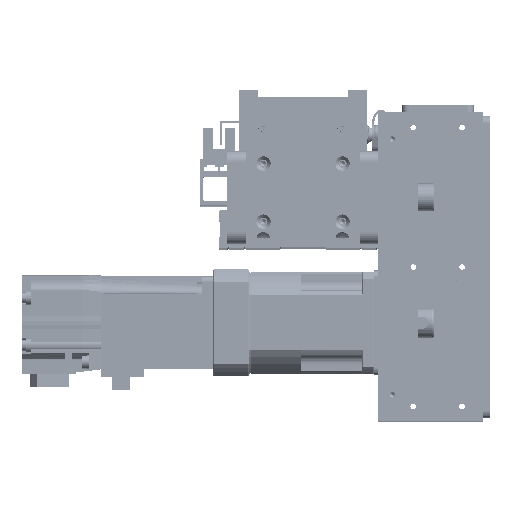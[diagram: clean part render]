
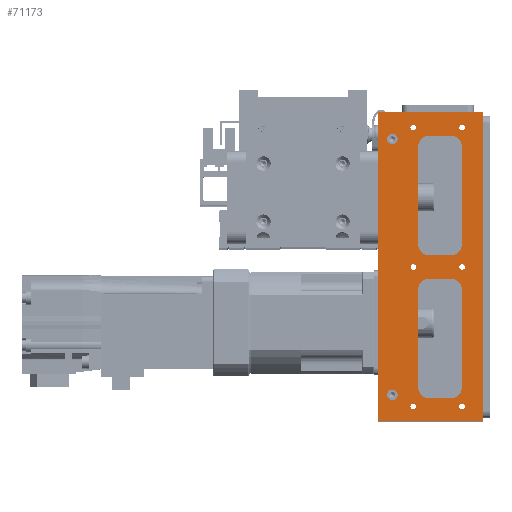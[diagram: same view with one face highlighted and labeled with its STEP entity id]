
A CAD part, top view. The second image highlights one B-rep face of the part: STEP entity #71173.
In plain terms, the highlighted planar face has unit normal (0, 0, 1) as drawn and (0, 1, 0) by its records, which use the part's own axes.
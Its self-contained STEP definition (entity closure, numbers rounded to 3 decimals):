
#1785=FACE_BOUND('',#11467,.T.);
#1786=FACE_BOUND('',#11468,.T.);
#1787=FACE_BOUND('',#11469,.T.);
#1788=FACE_BOUND('',#11470,.T.);
#1789=FACE_BOUND('',#11471,.T.);
#1790=FACE_BOUND('',#11472,.T.);
#1791=FACE_BOUND('',#11473,.T.);
#1792=FACE_BOUND('',#11474,.T.);
#1793=FACE_BOUND('',#11475,.T.);
#1794=FACE_BOUND('',#11476,.T.);
#3388=PLANE('',#78185);
#7086=FACE_OUTER_BOUND('',#11466,.T.);
#11466=EDGE_LOOP('',(#61217,#61218,#61219,#61220));
#11467=EDGE_LOOP('',(#61221));
#11468=EDGE_LOOP('',(#61222));
#11469=EDGE_LOOP('',(#61223));
#11470=EDGE_LOOP('',(#61224));
#11471=EDGE_LOOP('',(#61225));
#11472=EDGE_LOOP('',(#61226));
#11473=EDGE_LOOP('',(#61227));
#11474=EDGE_LOOP('',(#61228));
#11475=EDGE_LOOP('',(#61229,#61230,#61231,#61232,#61233,#61234,#61235,#61236));
#11476=EDGE_LOOP('',(#61237,#61238,#61239,#61240,#61241,#61242,#61243,#61244));
#15140=CIRCLE('',#78006,2.25);
#15144=CIRCLE('',#78012,2.25);
#15155=CIRCLE('',#78033,1.23);
#15159=CIRCLE('',#78039,1.23);
#15163=CIRCLE('',#78045,1.23);
#15167=CIRCLE('',#78051,1.23);
#15171=CIRCLE('',#78057,1.23);
#15175=CIRCLE('',#78063,1.23);
#15208=CIRCLE('',#78116,5.);
#15212=CIRCLE('',#78125,5.);
#15216=CIRCLE('',#78131,5.);
#15218=CIRCLE('',#78137,5.);
#15224=CIRCLE('',#78148,5.);
#15228=CIRCLE('',#78157,5.);
#15232=CIRCLE('',#78163,5.);
#15234=CIRCLE('',#78169,5.);
#19666=LINE('',#117870,#27079);
#19681=LINE('',#117900,#27094);
#19752=LINE('',#118190,#27165);
#19757=LINE('',#118201,#27170);
#19764=LINE('',#118226,#27177);
#19769=LINE('',#118237,#27182);
#19784=LINE('',#118286,#27197);
#19789=LINE('',#118297,#27202);
#19796=LINE('',#118322,#27209);
#19801=LINE('',#118333,#27214);
#19821=LINE('',#118383,#27234);
#19822=LINE('',#118385,#27235);
#27079=VECTOR('',#93371,10.);
#27094=VECTOR('',#93390,10.);
#27165=VECTOR('',#93705,10.);
#27170=VECTOR('',#93714,10.);
#27177=VECTOR('',#93741,10.);
#27182=VECTOR('',#93750,10.);
#27197=VECTOR('',#93801,10.);
#27202=VECTOR('',#93810,10.);
#27209=VECTOR('',#93837,10.);
#27214=VECTOR('',#93846,10.);
#27234=VECTOR('',#93902,10.);
#27235=VECTOR('',#93905,10.);
#34685=VERTEX_POINT('',#117867);
#34686=VERTEX_POINT('',#117869);
#34699=VERTEX_POINT('',#117898);
#34704=VERTEX_POINT('',#117918);
#34708=VERTEX_POINT('',#117930);
#34727=VERTEX_POINT('',#117988);
#34731=VERTEX_POINT('',#118000);
#34735=VERTEX_POINT('',#118012);
#34739=VERTEX_POINT('',#118024);
#34743=VERTEX_POINT('',#118036);
#34747=VERTEX_POINT('',#118048);
#34789=VERTEX_POINT('',#118171);
#34790=VERTEX_POINT('',#118173);
#34796=VERTEX_POINT('',#118188);
#34800=VERTEX_POINT('',#118200);
#34802=VERTEX_POINT('',#118206);
#34806=VERTEX_POINT('',#118218);
#34808=VERTEX_POINT('',#118224);
#34812=VERTEX_POINT('',#118236);
#34821=VERTEX_POINT('',#118267);
#34822=VERTEX_POINT('',#118269);
#34828=VERTEX_POINT('',#118284);
#34832=VERTEX_POINT('',#118296);
#34834=VERTEX_POINT('',#118302);
#34838=VERTEX_POINT('',#118314);
#34840=VERTEX_POINT('',#118320);
#34844=VERTEX_POINT('',#118332);
#34856=VERTEX_POINT('',#118381);
#43745=EDGE_CURVE('',#34685,#34686,#19666,.T.);
#43761=EDGE_CURVE('',#34699,#34685,#19681,.T.);
#43771=EDGE_CURVE('',#34704,#34704,#15140,.T.);
#43777=EDGE_CURVE('',#34708,#34708,#15144,.T.);
#43805=EDGE_CURVE('',#34727,#34727,#15155,.T.);
#43811=EDGE_CURVE('',#34731,#34731,#15159,.T.);
#43817=EDGE_CURVE('',#34735,#34735,#15163,.T.);
#43823=EDGE_CURVE('',#34739,#34739,#15167,.T.);
#43829=EDGE_CURVE('',#34743,#34743,#15171,.T.);
#43835=EDGE_CURVE('',#34747,#34747,#15175,.T.);
#43897=EDGE_CURVE('',#34790,#34789,#15208,.T.);
#43905=EDGE_CURVE('',#34789,#34796,#19752,.T.);
#43910=EDGE_CURVE('',#34800,#34790,#19757,.T.);
#43914=EDGE_CURVE('',#34796,#34802,#15212,.T.);
#43919=EDGE_CURVE('',#34806,#34800,#15216,.T.);
#43923=EDGE_CURVE('',#34802,#34808,#19764,.T.);
#43928=EDGE_CURVE('',#34812,#34806,#19769,.T.);
#43931=EDGE_CURVE('',#34808,#34812,#15218,.T.);
#43945=EDGE_CURVE('',#34822,#34821,#15224,.T.);
#43953=EDGE_CURVE('',#34821,#34828,#19784,.T.);
#43958=EDGE_CURVE('',#34832,#34822,#19789,.T.);
#43962=EDGE_CURVE('',#34828,#34834,#15228,.T.);
#43967=EDGE_CURVE('',#34838,#34832,#15232,.T.);
#43971=EDGE_CURVE('',#34834,#34840,#19796,.T.);
#43976=EDGE_CURVE('',#34844,#34838,#19801,.T.);
#43979=EDGE_CURVE('',#34840,#34844,#15234,.T.);
#44002=EDGE_CURVE('',#34856,#34686,#19821,.T.);
#44003=EDGE_CURVE('',#34699,#34856,#19822,.T.);
#61217=ORIENTED_EDGE('',*,*,#44003,.T.);
#61218=ORIENTED_EDGE('',*,*,#44002,.T.);
#61219=ORIENTED_EDGE('',*,*,#43745,.F.);
#61220=ORIENTED_EDGE('',*,*,#43761,.F.);
#61221=ORIENTED_EDGE('',*,*,#43771,.T.);
#61222=ORIENTED_EDGE('',*,*,#43777,.T.);
#61223=ORIENTED_EDGE('',*,*,#43805,.T.);
#61224=ORIENTED_EDGE('',*,*,#43811,.T.);
#61225=ORIENTED_EDGE('',*,*,#43817,.T.);
#61226=ORIENTED_EDGE('',*,*,#43823,.T.);
#61227=ORIENTED_EDGE('',*,*,#43829,.T.);
#61228=ORIENTED_EDGE('',*,*,#43835,.T.);
#61229=ORIENTED_EDGE('',*,*,#43931,.T.);
#61230=ORIENTED_EDGE('',*,*,#43928,.T.);
#61231=ORIENTED_EDGE('',*,*,#43919,.T.);
#61232=ORIENTED_EDGE('',*,*,#43910,.T.);
#61233=ORIENTED_EDGE('',*,*,#43897,.T.);
#61234=ORIENTED_EDGE('',*,*,#43905,.T.);
#61235=ORIENTED_EDGE('',*,*,#43914,.T.);
#61236=ORIENTED_EDGE('',*,*,#43923,.T.);
#61237=ORIENTED_EDGE('',*,*,#43979,.T.);
#61238=ORIENTED_EDGE('',*,*,#43976,.T.);
#61239=ORIENTED_EDGE('',*,*,#43967,.T.);
#61240=ORIENTED_EDGE('',*,*,#43958,.T.);
#61241=ORIENTED_EDGE('',*,*,#43945,.T.);
#61242=ORIENTED_EDGE('',*,*,#43953,.T.);
#61243=ORIENTED_EDGE('',*,*,#43962,.T.);
#61244=ORIENTED_EDGE('',*,*,#43971,.T.);
#71173=ADVANCED_FACE('',(#7086,#1785,#1786,#1787,#1788,#1789,#1790,#1791,
#1792,#1793,#1794),#3388,.T.);
#78006=AXIS2_PLACEMENT_3D('',#117920,#93412,#93413);
#78012=AXIS2_PLACEMENT_3D('',#117932,#93426,#93427);
#78033=AXIS2_PLACEMENT_3D('',#117989,#93485,#93486);
#78039=AXIS2_PLACEMENT_3D('',#118001,#93499,#93500);
#78045=AXIS2_PLACEMENT_3D('',#118013,#93513,#93514);
#78051=AXIS2_PLACEMENT_3D('',#118025,#93527,#93528);
#78057=AXIS2_PLACEMENT_3D('',#118037,#93541,#93542);
#78063=AXIS2_PLACEMENT_3D('',#118049,#93555,#93556);
#78116=AXIS2_PLACEMENT_3D('',#118174,#93690,#93691);
#78125=AXIS2_PLACEMENT_3D('',#118208,#93721,#93722);
#78131=AXIS2_PLACEMENT_3D('',#118219,#93734,#93735);
#78137=AXIS2_PLACEMENT_3D('',#118241,#93756,#93757);
#78148=AXIS2_PLACEMENT_3D('',#118270,#93786,#93787);
#78157=AXIS2_PLACEMENT_3D('',#118304,#93817,#93818);
#78163=AXIS2_PLACEMENT_3D('',#118315,#93830,#93831);
#78169=AXIS2_PLACEMENT_3D('',#118337,#93852,#93853);
#78185=AXIS2_PLACEMENT_3D('',#118384,#93903,#93904);
#93371=DIRECTION('',(1.,0.,0.));
#93390=DIRECTION('',(0.,0.,-1.));
#93412=DIRECTION('center_axis',(0.,-1.,0.));
#93413=DIRECTION('ref_axis',(1.,0.,0.));
#93426=DIRECTION('center_axis',(0.,-1.,0.));
#93427=DIRECTION('ref_axis',(1.,0.,0.));
#93485=DIRECTION('center_axis',(0.,-1.,0.));
#93486=DIRECTION('ref_axis',(1.,0.,0.));
#93499=DIRECTION('center_axis',(0.,-1.,0.));
#93500=DIRECTION('ref_axis',(1.,0.,0.));
#93513=DIRECTION('center_axis',(0.,-1.,0.));
#93514=DIRECTION('ref_axis',(1.,0.,0.));
#93527=DIRECTION('center_axis',(0.,-1.,0.));
#93528=DIRECTION('ref_axis',(1.,0.,0.));
#93541=DIRECTION('center_axis',(0.,-1.,0.));
#93542=DIRECTION('ref_axis',(1.,0.,0.));
#93555=DIRECTION('center_axis',(0.,-1.,0.));
#93556=DIRECTION('ref_axis',(1.,0.,0.));
#93690=DIRECTION('center_axis',(0.,-1.,0.));
#93691=DIRECTION('ref_axis',(0.,0.,-1.));
#93705=DIRECTION('',(-1.,0.,0.));
#93714=DIRECTION('',(0.,0.,1.));
#93721=DIRECTION('center_axis',(0.,-1.,0.));
#93722=DIRECTION('ref_axis',(1.,0.,0.));
#93734=DIRECTION('center_axis',(0.,-1.,0.));
#93735=DIRECTION('ref_axis',(-1.,0.,0.));
#93741=DIRECTION('',(0.,0.,-1.));
#93750=DIRECTION('',(1.,0.,0.));
#93756=DIRECTION('center_axis',(0.,-1.,0.));
#93757=DIRECTION('ref_axis',(0.,0.,1.));
#93786=DIRECTION('center_axis',(0.,-1.,0.));
#93787=DIRECTION('ref_axis',(1.,0.,0.));
#93801=DIRECTION('',(0.,0.,-1.));
#93810=DIRECTION('',(-1.,0.,0.));
#93817=DIRECTION('center_axis',(0.,-1.,0.));
#93818=DIRECTION('ref_axis',(0.,0.,1.));
#93830=DIRECTION('center_axis',(0.,-1.,0.));
#93831=DIRECTION('ref_axis',(0.,0.,-1.));
#93837=DIRECTION('',(1.,0.,0.));
#93846=DIRECTION('',(0.,0.,1.));
#93852=DIRECTION('center_axis',(0.,-1.,0.));
#93853=DIRECTION('ref_axis',(-1.,0.,0.));
#93902=DIRECTION('',(0.,0.,-1.));
#93903=DIRECTION('center_axis',(0.,1.,0.));
#93904=DIRECTION('ref_axis',(1.,0.,0.));
#93905=DIRECTION('',(1.,0.,0.));
#117867=CARTESIAN_POINT('',(-66.5,28.,-45.));
#117869=CARTESIAN_POINT('',(66.5,28.,-45.));
#117870=CARTESIAN_POINT('',(-66.5,28.,-45.));
#117898=CARTESIAN_POINT('',(-66.5,28.,0.));
#117900=CARTESIAN_POINT('',(-66.5,28.,0.));
#117918=CARTESIAN_POINT('',(52.75,28.,-39.));
#117920=CARTESIAN_POINT('Origin',(55.,28.,-39.));
#117930=CARTESIAN_POINT('',(-57.25,28.,-39.));
#117932=CARTESIAN_POINT('Origin',(-55.,28.,-39.));
#117988=CARTESIAN_POINT('',(58.771,28.,-30.));
#117989=CARTESIAN_POINT('Origin',(60.,28.,-30.));
#118000=CARTESIAN_POINT('',(-61.23,28.,-30.));
#118001=CARTESIAN_POINT('Origin',(-60.,28.,-30.));
#118012=CARTESIAN_POINT('',(-1.23,28.,-30.));
#118013=CARTESIAN_POINT('Origin',(0.,28.,-30.));
#118024=CARTESIAN_POINT('',(-1.23,28.,-9.));
#118025=CARTESIAN_POINT('Origin',(0.,28.,-9.));
#118036=CARTESIAN_POINT('',(-61.23,28.,-9.));
#118037=CARTESIAN_POINT('Origin',(-60.,28.,-9.));
#118048=CARTESIAN_POINT('',(58.771,28.,-9.));
#118049=CARTESIAN_POINT('Origin',(60.,28.,-9.));
#118171=CARTESIAN_POINT('',(-10.,28.,-9.));
#118173=CARTESIAN_POINT('',(-5.,28.,-14.));
#118174=CARTESIAN_POINT('Origin',(-10.,28.,-14.));
#118188=CARTESIAN_POINT('',(-51.5,28.,-9.));
#118190=CARTESIAN_POINT('',(-38.25,28.,-9.));
#118200=CARTESIAN_POINT('',(-5.,28.,-23.));
#118201=CARTESIAN_POINT('',(-5.,28.,-11.5));
#118206=CARTESIAN_POINT('',(-56.5,28.,-14.));
#118208=CARTESIAN_POINT('Origin',(-51.5,28.,-14.));
#118218=CARTESIAN_POINT('',(-10.,28.,-28.));
#118219=CARTESIAN_POINT('Origin',(-10.,28.,-23.));
#118224=CARTESIAN_POINT('',(-56.5,28.,-23.));
#118226=CARTESIAN_POINT('',(-56.5,28.,-7.));
#118236=CARTESIAN_POINT('',(-51.5,28.,-28.));
#118237=CARTESIAN_POINT('',(-59.,28.,-28.));
#118241=CARTESIAN_POINT('Origin',(-51.5,28.,-23.));
#118267=CARTESIAN_POINT('',(5.,28.,-14.));
#118269=CARTESIAN_POINT('',(10.,28.,-9.));
#118270=CARTESIAN_POINT('Origin',(10.,28.,-14.));
#118284=CARTESIAN_POINT('',(5.,28.,-23.));
#118286=CARTESIAN_POINT('',(5.,28.,-7.));
#118296=CARTESIAN_POINT('',(51.5,28.,-9.));
#118297=CARTESIAN_POINT('',(-7.5,28.,-9.));
#118302=CARTESIAN_POINT('',(10.,28.,-28.));
#118304=CARTESIAN_POINT('Origin',(10.,28.,-23.));
#118314=CARTESIAN_POINT('',(56.5,28.,-14.));
#118315=CARTESIAN_POINT('Origin',(51.5,28.,-14.));
#118320=CARTESIAN_POINT('',(51.5,28.,-28.));
#118322=CARTESIAN_POINT('',(-28.25,28.,-28.));
#118332=CARTESIAN_POINT('',(56.5,28.,-23.));
#118333=CARTESIAN_POINT('',(56.5,28.,-11.5));
#118337=CARTESIAN_POINT('Origin',(51.5,28.,-23.));
#118381=CARTESIAN_POINT('',(66.5,28.,0.));
#118383=CARTESIAN_POINT('',(66.5,28.,0.));
#118384=CARTESIAN_POINT('Origin',(-66.5,28.,0.));
#118385=CARTESIAN_POINT('',(-66.5,28.,0.));
